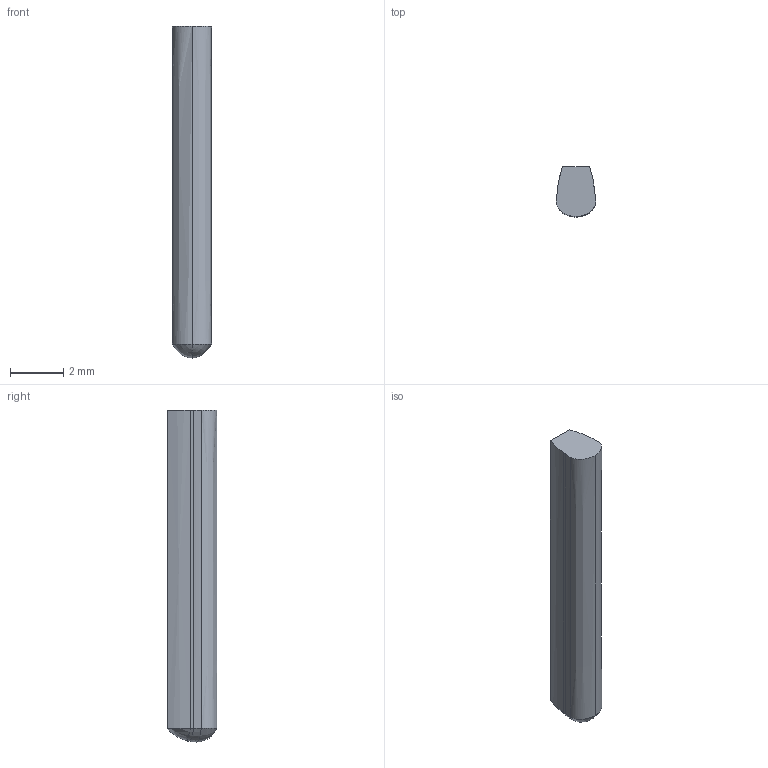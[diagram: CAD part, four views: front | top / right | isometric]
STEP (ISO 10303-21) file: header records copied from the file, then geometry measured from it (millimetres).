
FILE_DESCRIPTION((''),'2;1');
FILE_NAME('DE6-06','2008-09-08T',('awalter'),(''),'PRO/ENGINEER BY PARAMETRIC TECHNOLOGY CORPORATION, 2003450','PRO/ENGINEER BY PARAMETRIC TECHNOLOGY CORPORATION, 2003450','');
FILE_SCHEMA(('CONFIG_CONTROL_DESIGN'));
Length unit declared in the file: millimetre
Products named in the file (1): DE6-06
Bounding box: 1.47 x 1.88 x 12.51 mm (x, y, z)
Volume: 29.1 mm3; surface area: 74.3 mm2
Topology: 1 solids, 1 shells, 18 faces, 40 edges, 22 vertices
Faces by surface type: extrusion 8, bspline 8, plane 2
Entity records: 704 total; most frequent: CARTESIAN_POINT 358, ORIENTED_EDGE 76, EDGE_CURVE 38, B_SPLINE_CURVE_WITH_KNOTS 34, DIRECTION 24, VERTEX_POINT 22, VECTOR 20, EDGE_LOOP 18
